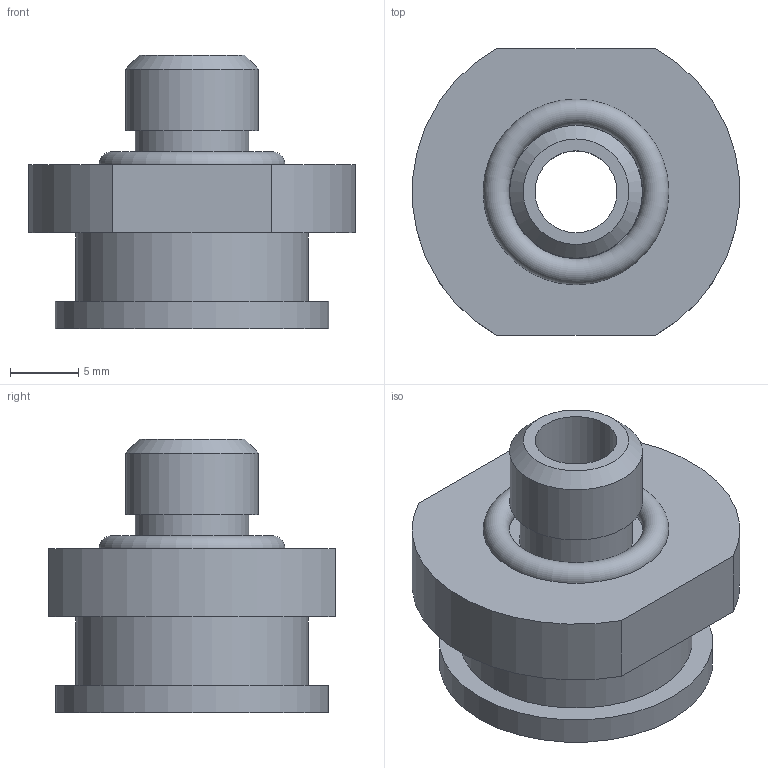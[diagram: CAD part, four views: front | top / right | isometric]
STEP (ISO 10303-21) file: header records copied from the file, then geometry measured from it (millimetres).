
FILE_DESCRIPTION(('STEP AP214'),'1');
FILE_NAME('.stp','2024-08-29T05:32:36',(' '),(' '),'Spatial InterOp 3D',' ',' ');
FILE_SCHEMA(('AUTOMOTIVE_DESIGN { 1 0 10303 214 1 1 1 1 }'));
Length unit declared in the file: millimetre
Products named in the file (2): HGL-30-G1-K; パーツ1
Assembly tree (1 placements, depth 2):
  HGL-30-G1-K
    パーツ1
Bounding box: 23.92 x 21 x 20 mm (x, y, z)
Volume: 3497.5 mm3; surface area: 2604 mm2
Topology: 1 solids, 2 shells, 23 faces, 43 edges, 29 vertices
Faces by surface type: plane 11, cylinder 9, torus 2, cone 1
Full cylindrical faces by diameter (mm): 6 x1, 8.3 x1, 9.728 x1, 10 x1, 12.5 x1, 17 x1, 20 x1
Entity records: 743 total; most frequent: DIRECTION 102, CARTESIAN_POINT 81, ORIENTED_EDGE 60, AXIS2_PLACEMENT_3D 47, EDGE_LOOP 42, FACE_OUTER_BOUND 32, EDGE_CURVE 30, VERTEX_POINT 26
